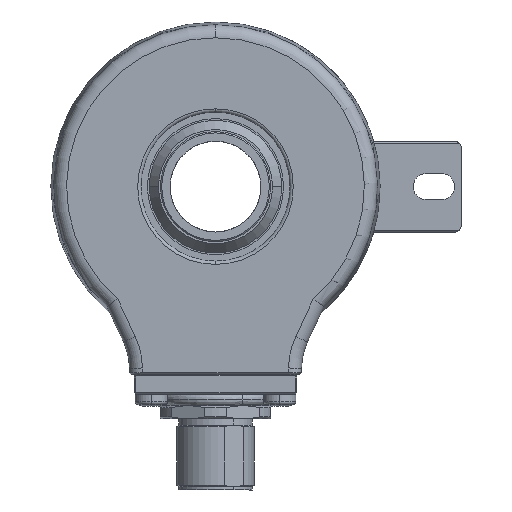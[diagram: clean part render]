
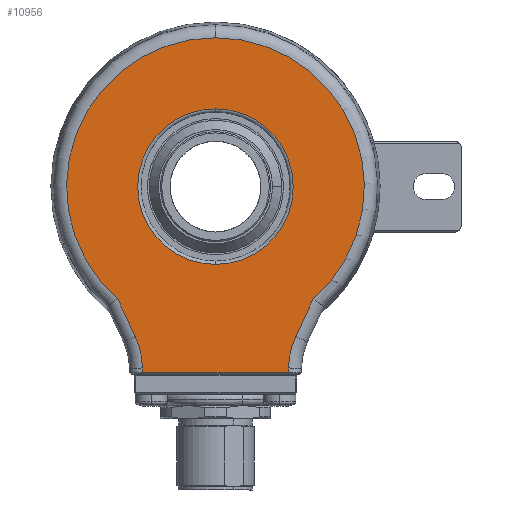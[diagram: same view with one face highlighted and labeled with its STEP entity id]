
A CAD part, left-side view. The second image highlights one B-rep face of the part: STEP entity #10956.
In plain terms, the highlighted planar face has unit normal (-1, 0, 0).
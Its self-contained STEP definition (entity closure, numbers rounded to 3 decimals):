
#247 = CARTESIAN_POINT ( 'NONE',  ( -21., -23.266, -28.183 ) ) ;
#474 = CARTESIAN_POINT ( 'NONE',  ( -21., 11.255, -28.695 ) ) ;
#569 = CARTESIAN_POINT ( 'NONE',  ( -21., 11.268, -27.974 ) ) ;
#1605 = EDGE_CURVE ( 'NONE', #12212, #19067, #24878, .T. ) ;
#2041 = DIRECTION ( 'NONE',  ( 0., -0.017, 1. ) ) ;
#2076 = CARTESIAN_POINT ( 'NONE',  ( -21., 23.266, -28.183 ) ) ;
#2258 = DIRECTION ( 'NONE',  ( 0., 0., 1. ) ) ;
#2406 = CARTESIAN_POINT ( 'NONE',  ( -21., 0., 0. ) ) ;
#2428 = ORIENTED_EDGE ( 'NONE', *, *, #2699, .T. ) ;
#2699 = EDGE_CURVE ( 'NONE', #12385, #9667, #20522, .T. ) ;
#3090 = CARTESIAN_POINT ( 'NONE',  ( -21., 0., 0. ) ) ;
#3957 = CARTESIAN_POINT ( 'NONE',  ( -21., -11.255, -28.695 ) ) ;
#4073 = DIRECTION ( 'NONE',  ( 0., 0., 1. ) ) ;
#4286 = ORIENTED_EDGE ( 'NONE', *, *, #20811, .T. ) ;
#4407 = DIRECTION ( 'NONE',  ( 0., 0., 1. ) ) ;
#5198 = CARTESIAN_POINT ( 'NONE',  ( -21., 11.752, -0.205 ) ) ;
#5257 = AXIS2_PLACEMENT_3D ( 'NONE', #2076, #15960, #4073 ) ;
#5607 = LINE ( 'NONE', #14960, #10274 ) ;
#5614 = DIRECTION ( 'NONE',  ( 1., 0., 0. ) ) ;
#6086 = CARTESIAN_POINT ( 'NONE',  ( -21., 0., 12. ) ) ;
#7092 = FACE_BOUND ( 'NONE', #8599, .T. ) ;
#7251 = VERTEX_POINT ( 'NONE', #24744 ) ;
#7911 = EDGE_CURVE ( 'NONE', #17185, #17124, #9067, .T. ) ;
#8378 = ORIENTED_EDGE ( 'NONE', *, *, #23679, .T. ) ;
#8599 = EDGE_LOOP ( 'NONE', ( #2428, #19216 ) ) ;
#8725 = ORIENTED_EDGE ( 'NONE', *, *, #9052, .T. ) ;
#9048 = CARTESIAN_POINT ( 'NONE',  ( -21., -11.25, -28.695 ) ) ;
#9052 = EDGE_CURVE ( 'NONE', #24082, #17185, #11173, .T. ) ;
#9067 = LINE ( 'NONE', #9048, #23639 ) ;
#9598 = CARTESIAN_POINT ( 'NONE',  ( -21., 0., 0. ) ) ;
#9659 = AXIS2_PLACEMENT_3D ( 'NONE', #17495, #5614, #19471 ) ;
#9667 = VERTEX_POINT ( 'NONE', #9751 ) ;
#9751 = CARTESIAN_POINT ( 'NONE',  ( -21., 0., -12. ) ) ;
#10190 = EDGE_CURVE ( 'NONE', #9667, #12385, #22269, .T. ) ;
#10274 = VECTOR ( 'NONE', #12982, 1000. ) ;
#10956 = ADVANCED_FACE ( 'NONE', ( #7092, #16997 ), #20949, .F. ) ;
#10985 = DIRECTION ( 'NONE',  ( 1., 0., 0. ) ) ;
#11069 = CARTESIAN_POINT ( 'NONE',  ( -21., -15.091, -17.32 ) ) ;
#11090 = DIRECTION ( 'NONE',  ( 0., 0., 1. ) ) ;
#11173 = LINE ( 'NONE', #5198, #11785 ) ;
#11610 = DIRECTION ( 'NONE',  ( 0., 0., 1. ) ) ;
#11650 = VERTEX_POINT ( 'NONE', #25406 ) ;
#11669 = ORIENTED_EDGE ( 'NONE', *, *, #14007, .T. ) ;
#11785 = VECTOR ( 'NONE', #13238, 1000. ) ;
#12125 = LINE ( 'NONE', #13943, #20798 ) ;
#12212 = VERTEX_POINT ( 'NONE', #19252 ) ;
#12385 = VERTEX_POINT ( 'NONE', #6086 ) ;
#12982 = DIRECTION ( 'NONE',  ( 0., -0.423, 0.906 ) ) ;
#13238 = DIRECTION ( 'NONE',  ( 0., -0.017, -1. ) ) ;
#13488 = ORIENTED_EDGE ( 'NONE', *, *, #15852, .T. ) ;
#13943 = CARTESIAN_POINT ( 'NONE',  ( -21., -11.752, -0.205 ) ) ;
#14007 = EDGE_CURVE ( 'NONE', #19067, #22670, #5607, .T. ) ;
#14150 = DIRECTION ( 'NONE',  ( 1., 0., 0. ) ) ;
#14960 = CARTESIAN_POINT ( 'NONE',  ( -21., -14.953, -17.615 ) ) ;
#15688 = CIRCLE ( 'NONE', #21154, 22.972 ) ;
#15852 = EDGE_CURVE ( 'NONE', #20950, #24082, #22662, .T. ) ;
#15960 = DIRECTION ( 'NONE',  ( 1., 0., 0. ) ) ;
#16291 = DIRECTION ( 'NONE',  ( -1., 0., 0. ) ) ;
#16298 = ORIENTED_EDGE ( 'NONE', *, *, #1605, .T. ) ;
#16962 = CARTESIAN_POINT ( 'NONE',  ( -21., 12.39, -23.112 ) ) ;
#16997 = FACE_OUTER_BOUND ( 'NONE', #21018, .T. ) ;
#17124 = VERTEX_POINT ( 'NONE', #3957 ) ;
#17185 = VERTEX_POINT ( 'NONE', #474 ) ;
#17495 = CARTESIAN_POINT ( 'NONE',  ( -21., 0., 0. ) ) ;
#19067 = VERTEX_POINT ( 'NONE', #25412 ) ;
#19216 = ORIENTED_EDGE ( 'NONE', *, *, #10190, .T. ) ;
#19252 = CARTESIAN_POINT ( 'NONE',  ( -21., -11.268, -27.974 ) ) ;
#19471 = DIRECTION ( 'NONE',  ( 0., 0., 1. ) ) ;
#19686 = ORIENTED_EDGE ( 'NONE', *, *, #23490, .T. ) ;
#19889 = AXIS2_PLACEMENT_3D ( 'NONE', #247, #14150, #2258 ) ;
#19940 = AXIS2_PLACEMENT_3D ( 'NONE', #2406, #16291, #4407 ) ;
#20522 = CIRCLE ( 'NONE', #21906, 12. ) ;
#20526 = VECTOR ( 'NONE', #22873, 1000. ) ;
#20798 = VECTOR ( 'NONE', #2041, 1000. ) ;
#20811 = EDGE_CURVE ( 'NONE', #22670, #11650, #15688, .T. ) ;
#20949 = PLANE ( 'NONE',  #22793 ) ;
#20950 = VERTEX_POINT ( 'NONE', #21803 ) ;
#21018 = EDGE_LOOP ( 'NONE', ( #8725, #24535, #21161, #16298, #11669, #4286, #19686, #8378, #13488 ) ) ;
#21154 = AXIS2_PLACEMENT_3D ( 'NONE', #9598, #23469, #11610 ) ;
#21156 = LINE ( 'NONE', #16962, #20526 ) ;
#21161 = ORIENTED_EDGE ( 'NONE', *, *, #24470, .T. ) ;
#21803 = CARTESIAN_POINT ( 'NONE',  ( -21., 12.39, -23.112 ) ) ;
#21906 = AXIS2_PLACEMENT_3D ( 'NONE', #22850, #10985, #24833 ) ;
#22269 = CIRCLE ( 'NONE', #9659, 12. ) ;
#22662 = CIRCLE ( 'NONE', #5257, 12. ) ;
#22670 = VERTEX_POINT ( 'NONE', #11069 ) ;
#22793 = AXIS2_PLACEMENT_3D ( 'NONE', #3090, #22940, #11090 ) ;
#22850 = CARTESIAN_POINT ( 'NONE',  ( -21., 0., 0. ) ) ;
#22873 = DIRECTION ( 'NONE',  ( 0., -0.423, -0.906 ) ) ;
#22904 = DIRECTION ( 'NONE',  ( 0., -1., 0. ) ) ;
#22940 = DIRECTION ( 'NONE',  ( 1., 0., 0. ) ) ;
#23469 = DIRECTION ( 'NONE',  ( -1., 0., 0. ) ) ;
#23490 = EDGE_CURVE ( 'NONE', #11650, #7251, #24256, .T. ) ;
#23639 = VECTOR ( 'NONE', #22904, 1000. ) ;
#23679 = EDGE_CURVE ( 'NONE', #7251, #20950, #21156, .T. ) ;
#24082 = VERTEX_POINT ( 'NONE', #569 ) ;
#24256 = CIRCLE ( 'NONE', #19940, 22.972 ) ;
#24470 = EDGE_CURVE ( 'NONE', #17124, #12212, #12125, .T. ) ;
#24535 = ORIENTED_EDGE ( 'NONE', *, *, #7911, .T. ) ;
#24744 = CARTESIAN_POINT ( 'NONE',  ( -21., 15.091, -17.32 ) ) ;
#24833 = DIRECTION ( 'NONE',  ( 0., 0., 1. ) ) ;
#24878 = CIRCLE ( 'NONE', #19889, 12. ) ;
#25406 = CARTESIAN_POINT ( 'NONE',  ( -21., 0., 22.972 ) ) ;
#25412 = CARTESIAN_POINT ( 'NONE',  ( -21., -12.39, -23.112 ) ) ;
